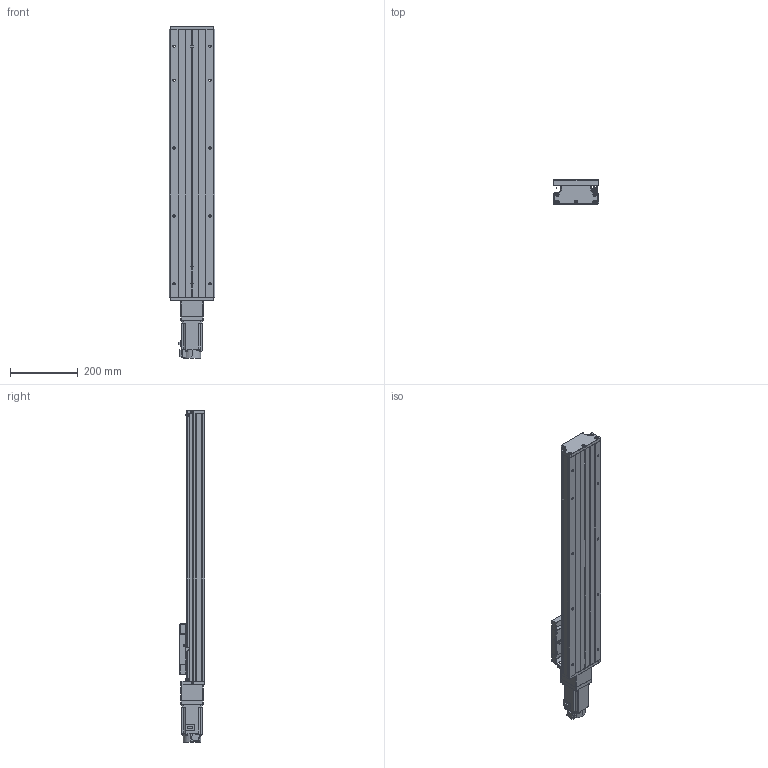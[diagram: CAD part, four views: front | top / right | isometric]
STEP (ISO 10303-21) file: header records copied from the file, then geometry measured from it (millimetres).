
FILE_DESCRIPTION (( 'STEP AP203' ), '1' );
FILE_NAME ('CTH130-600-BC-M40-C4.step', '2023-06-30T02:33:52', ( '微软用户' ), ( '微软中国' ), 'SwSTEP 2.0', 'SolidWorks 2020', '' );
FILE_SCHEMA (( 'CONFIG_CONTROL_DESIGN' ));
Length unit declared in the file: millimetre
Products named in the file (21): EE_SX911P_R; CTHA86-006-1_M40; GB T308.1-2013-6.35; CTHA60-016; CTHA86-013; GTH14-004; GBT 70.1-M3℅5; CTHA86-027-1; GTH14-005; GBT77-2000 M3×3; GBT 70.3-M3℅8; GB1155-6X6; CTH130-031; HG-KN43J-S100; GBT70.1 M5℅16; GBT 70.2-M3¡Á5_M3¡Á6; CTH130-600-BC-M40-C4; GTH14-001_600; CTHA60-017; す晦芛蹟隊 M3℅5; CTH130-002_GTH14-002
Assembly tree (59 placements, depth 2):
  CTH130-600-BC-M40-C4
    GTH14-001_600
    CTH130-002_GTH14-002
    GB T308.1-2013-6.35  x2
    GTH14-004
    GTH14-005
    GB1155-6X6  x2
    GBT70.1 M5℅16  x10
    CTHA60-017  x3
    EE_SX911P_R  x3
    CTHA60-016  x2
    GBT 70.1-M3℅5  x6
    GBT77-2000 M3×3  x6
    CTH130-031
    GBT 70.2-M3¡Á5_M3¡Á6  x8
    す晦芛蹟隊 M3℅5  x6
    CTHA86-006-1_M40
    CTHA86-013
    CTHA86-027-1
    GBT 70.3-M3℅8  x2
    HG-KN43J-S100
Bounding box: 135 x 76 x 978.7 mm (x, y, z)
Volume: 4725113.5 mm3; surface area: 756200.8 mm2
Topology: 62 solids, 62 shells, 2380 faces, 5681 edges, 3519 vertices
Faces by surface type: plane 1303, cylinder 626, cone 287, torus 120, sphere 24, bspline 20
Entity records: 43680 total; most frequent: CARTESIAN_POINT 9805, DIRECTION 6331, ORIENTED_EDGE 6262, EDGE_CURVE 3131, AXIS2_PLACEMENT_3D 2141, LINE 2049, VECTOR 2049, VERTEX_POINT 1979
